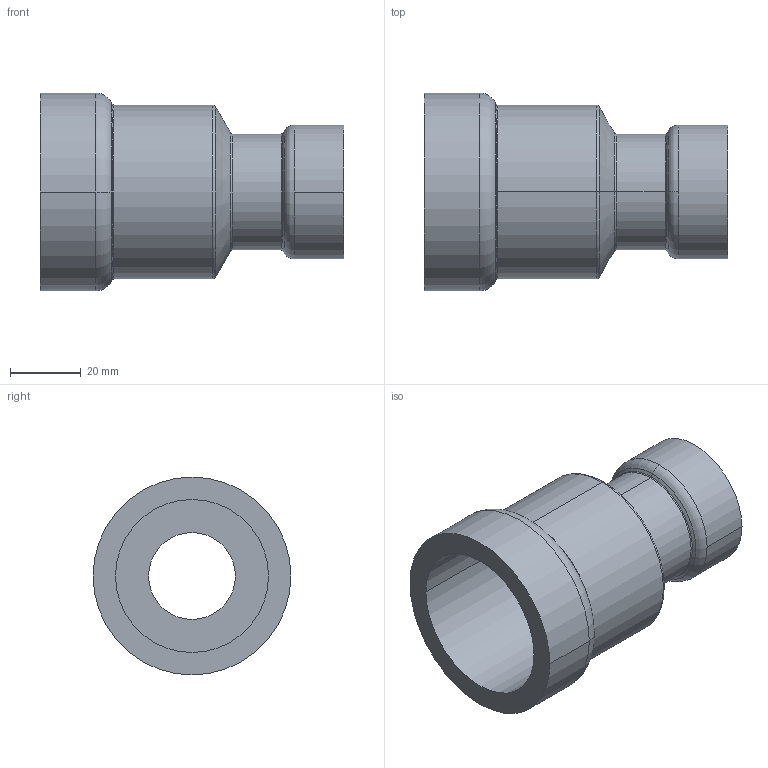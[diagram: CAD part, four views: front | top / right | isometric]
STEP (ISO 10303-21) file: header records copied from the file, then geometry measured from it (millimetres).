
FILE_DESCRIPTION(('Creo Elements/Direct Modeling STEP Export'),'2;1');
FILE_NAME('C9439_1-1-4_3-4.stp','2020-07-20T10:09:07',(''),(''),'PTC Creo Elements/Direct Modeling STEP processor for AP214 (Solid Model)','PTC Creo Elements/Direct Modeling 19.0C 15-Aug-2015 (C) Parametric Technology GmbH','');
FILE_SCHEMA(('AUTOMOTIVE_DESIGN { 1 0 10303 214 1 1 1 1 }'));
Length unit declared in the file: millimetre
Products named in the file (2): C9439_1-1-4_3-4
Assembly tree (1 placements, depth 2):
  C9439_1-1-4_3-4
    C9439_1-1-4_3-4
Bounding box: 85.98 x 56 x 56 mm (x, y, z)
Volume: 48298.4 mm3; surface area: 25601.3 mm2
Topology: 1 solids, 1 shells, 36 faces, 76 edges, 44 vertices
Faces by surface type: cylinder 14, torus 12, cone 6, plane 4
Entity records: 905 total; most frequent: DIRECTION 160, ORIENTED_EDGE 152, CARTESIAN_POINT 134, EDGE_CURVE 76, AXIS2_PLACEMENT_3D 70, VERTEX_POINT 44, EDGE_LOOP 40, FACE_OUTER_BOUND 36
